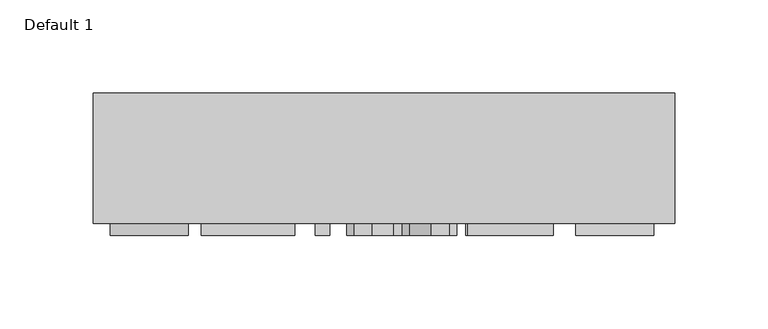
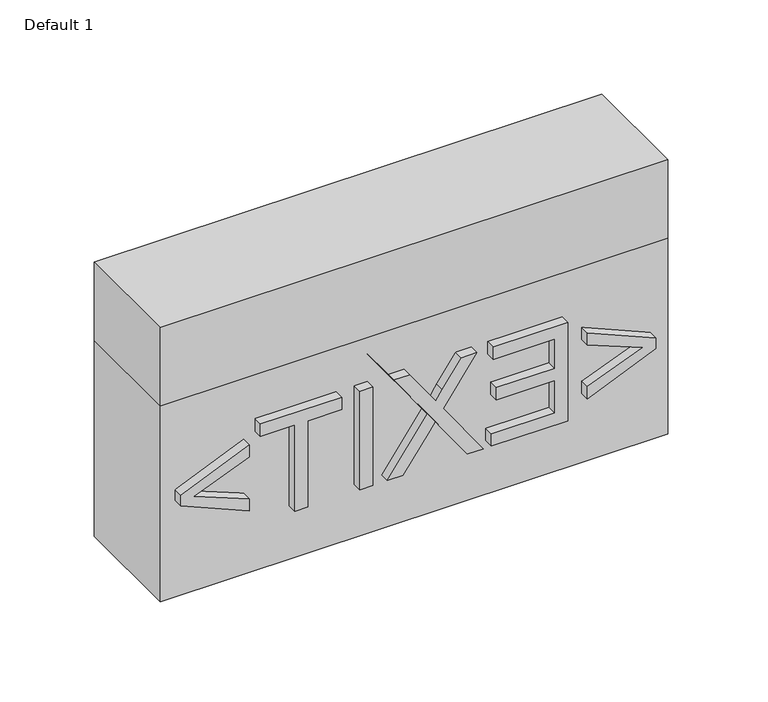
"""IFC4 building model written with IfcOpenShell, lengths in millimetres: proxy geometry, Emergency Light – Ceiling Mounted with Arrow : Default 1."""

from ifc_helpers import new_model, si_unit, frame, origin, place, context, project, spatial, polyline, outline, extrude, source, transform, mapped, element, save


def default_1_b8a1c5df(model_context):
    return source(origin(), model_context, "Body", "SweptSolid", [
        extrude(outline(polyline([(-155.575, 34.925), (155.575, 34.925), (155.575, -34.925), (-155.575, -34.925), (-155.575, 34.925)])), frame((0.0, 0.0, 2387.346), z_axis=(0.0, 0.0, 1.0), x_axis=(1.0, 0.0, 0.0)), (0.0, 0.0, 1.0), 50.8),
        extrude(outline(polyline([(-155.575, 34.925), (155.575, 34.925), (155.575, -34.925), (-155.575, -34.925), (-155.575, 34.925)])), frame((0.0, 0.0, 2260.346), z_axis=(0.0, 0.0, 1.0), x_axis=(1.0, 0.0, 0.0)), (0.0, 0.0, 1.0), 127.0),
        extrude(outline(polyline([(2323.1878231, 144.4764087), (2330.1648278, 144.4764087), (2348.1056969, 102.6143807), (2340.1319773, 102.6143807), (2326.6763255, 136.5026891), (2313.2206736, 102.6143807), (2305.246954, 102.6143807), (2323.1878231, 144.4764087)])), frame((0.0, -41.275, 0.0), z_axis=(0.0, 1.0, 0.0), x_axis=(0.0, 0.0, 1.0)), (0.0, 0.0, 1.0), 76.2),
        extrude(outline(polyline([(2295.2798045, 90.6538013), (2359.0695614, 90.6538013), (2359.0695614, 44.8049135), (2351.0958418, 44.8049135), (2351.0958418, 82.6800817), (2332.1582577, 82.6800817), (2332.1582577, 46.7983434), (2324.1845381, 46.7983434), (2324.1845381, 82.6800817), (2303.2535241, 82.6800817), (2303.2535241, 43.8081985), (2295.2798045, 43.8081985), (2295.2798045, 90.6538013)])), frame((0.0, -41.275, 0.0), z_axis=(0.0, 1.0, 0.0), x_axis=(0.0, 0.0, 1.0)), (0.0, 0.0, 1.0), 76.2),
        extrude(outline(polyline([(2295.2798045, 38.8246238), (2330.0402384, 14.233797), (2359.0695614, 34.8377639), (2359.0695614, 25.2755299), (2342.7327804, 13.6731449), (2336.3631489, 9.7641534), (2342.8417961, 5.1854941), (2359.0695614, -6.2923015), (2359.0695614, -15.9946986), (2329.9467964, 4.6092683), (2295.2798045, -19.9815584), (2295.2798045, -10.4193244), (2318.3911324, 5.9641777), (2323.1878231, 9.3748116), (2317.9239223, 13.1280664), (2295.2798045, 29.1222266), (2295.2798045, 38.8246238)])), frame((0.0, -41.275, 0.0), z_axis=(0.0, 1.0, 0.0), x_axis=(0.0, 0.0, 1.0)), (0.0, 0.0, 1.0), 76.2),
        extrude(outline(polyline([(-28.951993, -41.275), (-36.9257126, -41.275), (-36.9257126, 34.925), (-28.951993, 34.925), (-28.951993, -41.275)])), frame((0.0, 0.0, 2295.2798045), z_axis=(0.0, 0.0, 1.0), x_axis=(1.0, 0.0, 0.0)), (0.0, 0.0, 1.0), 63.7897569),
        extrude(outline(polyline([(2295.2798045, -68.8205911), (2351.0958418, -68.8205911), (2351.0958418, -47.8895771), (2359.0695614, -47.8895771), (2359.0695614, -97.7253247), (2351.0958418, -97.7253247), (2351.0958418, -76.7943107), (2295.2798045, -76.7943107), (2295.2798045, -68.8205911)])), frame((0.0, -41.275, 0.0), z_axis=(0.0, 1.0, 0.0), x_axis=(0.0, 0.0, 1.0)), (0.0, 0.0, 1.0), 76.2),
        extrude(outline(polyline([(2323.1878231, -146.5643574), (2305.246954, -104.7023294), (2313.2206736, -104.7023294), (2326.6763255, -138.5906377), (2340.1319773, -104.7023294), (2348.1056969, -104.7023294), (2330.1648278, -146.5643574), (2323.1878231, -146.5643574)])), frame((0.0, -41.275, 0.0), z_axis=(0.0, 1.0, 0.0), x_axis=(0.0, 0.0, 1.0)), (0.0, 0.0, 1.0), 76.2),
    ])


if __name__ == "__main__":
    model = new_model("IFC4")
    model_context = context("Model", 3, world=origin())
    ifc_project = project(units=[si_unit("LENGTHUNIT", "METRE", prefix="MILLI")], contexts=[model_context])
    site = spatial("IfcSite", under=ifc_project)
    building = spatial("IfcBuilding", under=site)
    placement = place(None, origin())
    default_1_shape = default_1_b8a1c5df(model_context)
    element("IfcBuildingElementProxy", 1, Name="Emergency Light – Ceiling Mounted with Arrow : Default 1", ObjectType="Emergency Light – Ceiling Mounted with Arrow : Default 1", at=placement, inside=building, context=model_context, shape_type="MappedRepresentation", body=[
        mapped(default_1_shape, transform((0.0, 0.0, 0.0), x_axis=(1.0, 0.0, 0.0), y_axis=(0.0, 1.0, 0.0), z_axis=(0.0, 0.0, 1.0))),
    ])
    save(model, "model.ifc")
